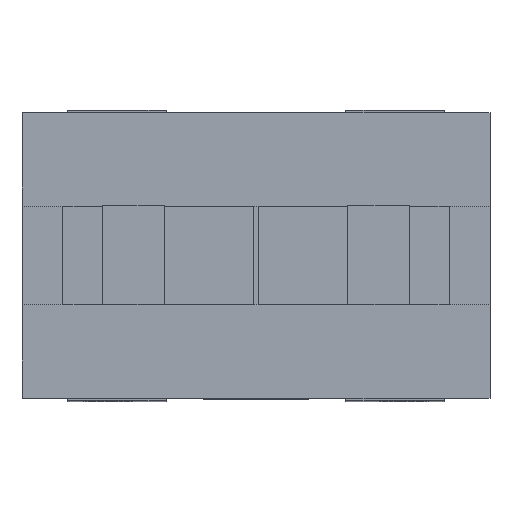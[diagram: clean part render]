
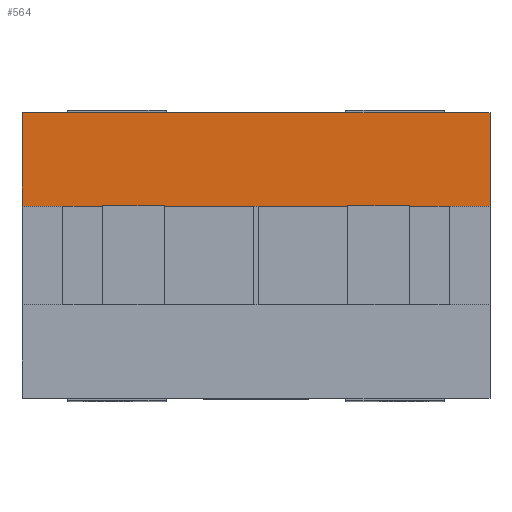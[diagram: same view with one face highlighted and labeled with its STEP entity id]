
A CAD part, top view. The second image highlights one B-rep face of the part: STEP entity #564.
In plain terms, the highlighted planar face has unit normal (0, 0, 1).
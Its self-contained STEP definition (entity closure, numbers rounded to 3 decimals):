
#227 = LINE ( 'NONE', #574, #4352 ) ;
#561 = DIRECTION ( 'NONE',  ( 0., -1., 0. ) ) ;
#564 = ADVANCED_FACE ( 'NONE', ( #5993 ), #1333, .T. ) ;
#574 = CARTESIAN_POINT ( 'NONE',  ( 19., -11.6, 50. ) ) ;
#746 = VECTOR ( 'NONE', #561, 1000. ) ;
#751 = ORIENTED_EDGE ( 'NONE', *, *, #820, .T. ) ;
#820 = EDGE_CURVE ( 'NONE', #5011, #3817, #2855, .T. ) ;
#955 = DIRECTION ( 'NONE',  ( 1., 0., 0. ) ) ;
#966 = CARTESIAN_POINT ( 'NONE',  ( 19., 4., 50. ) ) ;
#1016 = DIRECTION ( 'NONE',  ( 0., 0., 1. ) ) ;
#1069 = DIRECTION ( 'NONE',  ( 0., 1., 0. ) ) ;
#1097 = ORIENTED_EDGE ( 'NONE', *, *, #3658, .T. ) ;
#1234 = VECTOR ( 'NONE', #955, 1000. ) ;
#1242 = VECTOR ( 'NONE', #1761, 1000. ) ;
#1292 = EDGE_CURVE ( 'NONE', #6322, #4682, #6819, .T. ) ;
#1333 = PLANE ( 'NONE',  #6164 ) ;
#1417 = EDGE_CURVE ( 'NONE', #4682, #3817, #227, .T. ) ;
#1604 = ORIENTED_EDGE ( 'NONE', *, *, #1292, .F. ) ;
#1642 = DIRECTION ( 'NONE',  ( 0., -1., 0. ) ) ;
#1761 = DIRECTION ( 'NONE',  ( 1., 0., 0. ) ) ;
#2102 = CARTESIAN_POINT ( 'NONE',  ( 19., 4., 50. ) ) ;
#2179 = LINE ( 'NONE', #4882, #746 ) ;
#2855 = LINE ( 'NONE', #4503, #1242 ) ;
#3061 = ORIENTED_EDGE ( 'NONE', *, *, #1417, .F. ) ;
#3330 = CARTESIAN_POINT ( 'NONE',  ( -19., 4., 50. ) ) ;
#3658 = EDGE_CURVE ( 'NONE', #6322, #5011, #2179, .T. ) ;
#3803 = CARTESIAN_POINT ( 'NONE',  ( 0., 11.6, 50. ) ) ;
#3817 = VERTEX_POINT ( 'NONE', #966 ) ;
#4352 = VECTOR ( 'NONE', #1642, 1000. ) ;
#4503 = CARTESIAN_POINT ( 'NONE',  ( 19., 4., 50. ) ) ;
#4682 = VERTEX_POINT ( 'NONE', #6717 ) ;
#4882 = CARTESIAN_POINT ( 'NONE',  ( -19., 7.8, 50. ) ) ;
#5011 = VERTEX_POINT ( 'NONE', #3330 ) ;
#5247 = EDGE_LOOP ( 'NONE', ( #3061, #1604, #1097, #751 ) ) ;
#5724 = CARTESIAN_POINT ( 'NONE',  ( -19., 11.6, 50. ) ) ;
#5993 = FACE_OUTER_BOUND ( 'NONE', #5247, .T. ) ;
#6164 = AXIS2_PLACEMENT_3D ( 'NONE', #2102, #1016, #1069 ) ;
#6322 = VERTEX_POINT ( 'NONE', #5724 ) ;
#6717 = CARTESIAN_POINT ( 'NONE',  ( 19., 11.6, 50. ) ) ;
#6819 = LINE ( 'NONE', #3803, #1234 ) ;
